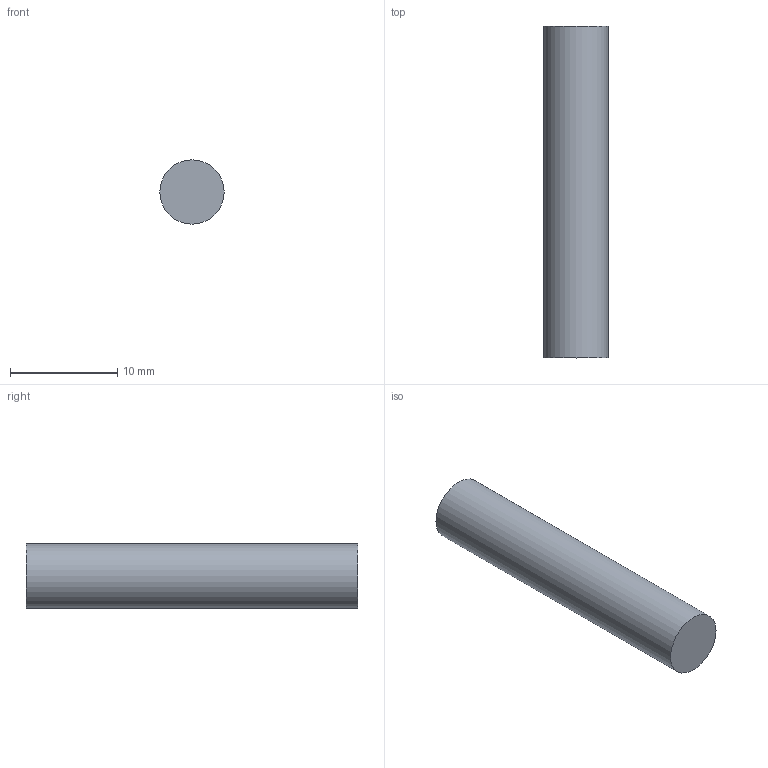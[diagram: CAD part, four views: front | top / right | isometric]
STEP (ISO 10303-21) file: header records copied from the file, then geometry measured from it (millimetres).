
FILE_DESCRIPTION(('Open CASCADE Model'),'2;1');
FILE_NAME('Open CASCADE Shape Model','2026-10-15T18:27:22',('Author'),( 'Open CASCADE'),'Open CASCADE STEP processor 7.9','Open CASCADE 7.9' ,'Unknown');
FILE_SCHEMA(('AUTOMOTIVE_DESIGN { 1 0 10303 214 1 1 1 1 }'));
Length unit declared in the file: millimetre
Products named in the file (1): Open CASCADE STEP translator 7.9 8
Bounding box: 6 x 31 x 6 mm (x, y, z)
Volume: 876.5 mm3; surface area: 640.9 mm2
Topology: 1 solids, 1 shells, 3 faces, 3 edges, 2 vertices
Faces by surface type: plane 2, cylinder 1
Full cylindrical faces by diameter (mm): 6 x1
Entity records: 108 total; most frequent: DIRECTION 19, CARTESIAN_POINT 15, AXIS2_PLACEMENT_3D 6, ORIENTED_EDGE 6, PCURVE 6, DEFINITIONAL_REPRESENTATION 6, LINE 5, VECTOR 5
